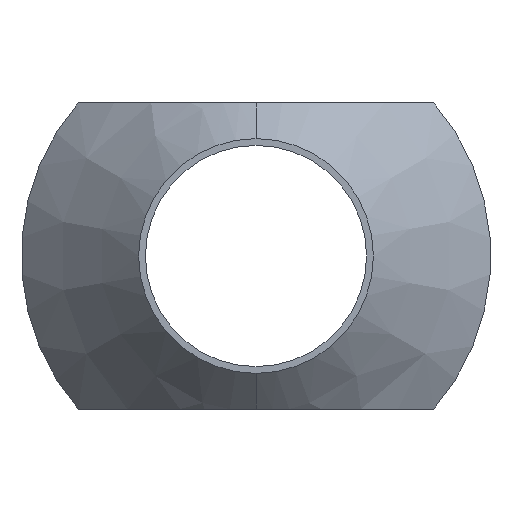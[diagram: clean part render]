
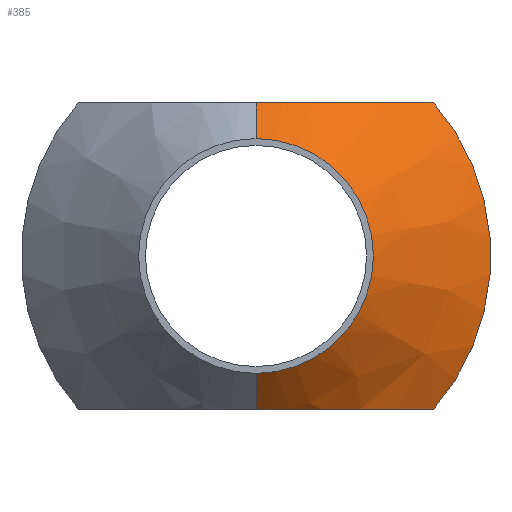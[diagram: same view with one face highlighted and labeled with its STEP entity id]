
A CAD part, front view. The second image highlights one B-rep face of the part: STEP entity #385.
In plain terms, the highlighted conical face has half-angle 45 degrees and reference radius 3.45 mm.
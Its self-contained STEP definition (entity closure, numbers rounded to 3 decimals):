
#1 = ORIENTED_EDGE ( 'NONE', *, *, #290, .F. ) ;
#60 = CARTESIAN_POINT ( 'NONE',  ( 5.231, 17.65, 4.5 ) ) ;
#69 = DIRECTION ( 'NONE',  ( 0., 0.707, 0.707 ) ) ;
#76 = ORIENTED_EDGE ( 'NONE', *, *, #792, .T. ) ;
#78 = B_SPLINE_CURVE_WITH_KNOTS ( 'NONE', 3,
 ( #628, #129, #206, #698, #284, #770, #354, #842, #426, #900, #487, #60 ),
 .UNSPECIFIED., .F., .F.,
 ( 4, 2, 2, 2, 2, 4 ),
 ( 0.014, 0.015, 0.016, 0.017, 0.018, 0.02 ),
 .UNSPECIFIED. ) ;
#79 = CARTESIAN_POINT ( 'NONE',  ( 1.913, 15.619, -4.5 ) ) ;
#90 = ORIENTED_EDGE ( 'NONE', *, *, #323, .T. ) ;
#105 = CARTESIAN_POINT ( 'NONE',  ( 5.231, 17.65, 4.5 ) ) ;
#128 = DIRECTION ( 'NONE',  ( 0., 1., 0. ) ) ;
#129 = CARTESIAN_POINT ( 'NONE',  ( 0.247, 15.25, 4.5 ) ) ;
#145 = CARTESIAN_POINT ( 'NONE',  ( 0.976, 15.349, -4.5 ) ) ;
#148 = VERTEX_POINT ( 'NONE', #105 ) ;
#150 = CIRCLE ( 'NONE', #782, 3.45 ) ;
#157 = AXIS2_PLACEMENT_3D ( 'NONE', #553, #128, #423 ) ;
#194 = ORIENTED_EDGE ( 'NONE', *, *, #266, .F. ) ;
#199 = LINE ( 'NONE', #813, #514 ) ;
#206 = CARTESIAN_POINT ( 'NONE',  ( 0.494, 15.271, 4.5 ) ) ;
#227 = CARTESIAN_POINT ( 'NONE',  ( 4.45, 17.071, -4.5 ) ) ;
#229 = CARTESIAN_POINT ( 'NONE',  ( 0.247, 15.25, -4.5 ) ) ;
#266 = EDGE_CURVE ( 'NONE', #852, #845, #725, .T. ) ;
#284 = CARTESIAN_POINT ( 'NONE',  ( 1.213, 15.405, 4.5 ) ) ;
#290 = EDGE_CURVE ( 'NONE', #839, #398, #653, .T. ) ;
#294 = CARTESIAN_POINT ( 'NONE',  ( 0., 14.2, 3.45 ) ) ;
#304 = CARTESIAN_POINT ( 'NONE',  ( 4.843, 17.356, -4.5 ) ) ;
#323 = EDGE_CURVE ( 'NONE', #839, #148, #633, .T. ) ;
#342 = CARTESIAN_POINT ( 'NONE',  ( 0., 17.65, 0. ) ) ;
#354 = CARTESIAN_POINT ( 'NONE',  ( 2.367, 15.821, 4.5 ) ) ;
#372 = CONICAL_SURFACE ( 'NONE', #157, 3.45, 0.785 ) ;
#385 = ADVANCED_FACE ( 'NONE', ( #642 ), #372, .T. ) ;
#393 = DIRECTION ( 'NONE',  ( 0., -1., 0. ) ) ;
#398 = VERTEX_POINT ( 'NONE', #486 ) ;
#411 = CARTESIAN_POINT ( 'NONE',  ( 0., 15.25, 4.5 ) ) ;
#413 = DIRECTION ( 'NONE',  ( 0., 0., -1. ) ) ;
#421 = EDGE_CURVE ( 'NONE', #845, #148, #78, .T. ) ;
#423 = DIRECTION ( 'NONE',  ( 0., 0., 1. ) ) ;
#426 = CARTESIAN_POINT ( 'NONE',  ( 3.643, 16.532, 4.5 ) ) ;
#441 = CARTESIAN_POINT ( 'NONE',  ( 3.643, 16.532, -4.5 ) ) ;
#468 = DIRECTION ( 'NONE',  ( 0., 0.707, -0.707 ) ) ;
#473 = ORIENTED_EDGE ( 'NONE', *, *, #872, .F. ) ;
#482 = ORIENTED_EDGE ( 'NONE', *, *, #421, .F. ) ;
#486 = CARTESIAN_POINT ( 'NONE',  ( 0., 15.25, -4.5 ) ) ;
#487 = CARTESIAN_POINT ( 'NONE',  ( 4.843, 17.356, 4.5 ) ) ;
#501 = CARTESIAN_POINT ( 'NONE',  ( 2.367, 15.821, -4.5 ) ) ;
#514 = VECTOR ( 'NONE', #468, 1000. ) ;
#553 = CARTESIAN_POINT ( 'NONE',  ( 0., 14.2, 0. ) ) ;
#575 = CARTESIAN_POINT ( 'NONE',  ( 1.213, 15.405, -4.5 ) ) ;
#610 = CARTESIAN_POINT ( 'NONE',  ( 5.231, 17.65, -4.5 ) ) ;
#628 = CARTESIAN_POINT ( 'NONE',  ( 0., 15.25, 4.5 ) ) ;
#631 = AXIS2_PLACEMENT_3D ( 'NONE', #342, #828, #413 ) ;
#633 = CIRCLE ( 'NONE', #631, 6.9 ) ;
#637 = EDGE_LOOP ( 'NONE', ( #473, #76, #1, #90, #482, #194 ) ) ;
#642 = FACE_OUTER_BOUND ( 'NONE', #637, .T. ) ;
#652 = CARTESIAN_POINT ( 'NONE',  ( 0.494, 15.271, -4.5 ) ) ;
#653 = B_SPLINE_CURVE_WITH_KNOTS ( 'NONE', 3,
 ( #856, #304, #227, #441, #921, #501, #79, #575, #145, #652, #229, #714 ),
 .UNSPECIFIED., .F., .F.,
 ( 4, 2, 2, 2, 2, 4 ),
 ( 0.025, 0.026, 0.027, 0.029, 0.03, 0.03 ),
 .UNSPECIFIED. ) ;
#686 = CARTESIAN_POINT ( 'NONE',  ( 0., 14.2, -3.45 ) ) ;
#698 = CARTESIAN_POINT ( 'NONE',  ( 0.976, 15.349, 4.5 ) ) ;
#714 = CARTESIAN_POINT ( 'NONE',  ( 0., 15.25, -4.5 ) ) ;
#725 = LINE ( 'NONE', #294, #905 ) ;
#770 = CARTESIAN_POINT ( 'NONE',  ( 1.913, 15.619, 4.5 ) ) ;
#782 = AXIS2_PLACEMENT_3D ( 'NONE', #807, #393, #870 ) ;
#792 = EDGE_CURVE ( 'NONE', #800, #398, #199, .T. ) ;
#800 = VERTEX_POINT ( 'NONE', #686 ) ;
#807 = CARTESIAN_POINT ( 'NONE',  ( 0., 14.2, 0. ) ) ;
#813 = CARTESIAN_POINT ( 'NONE',  ( 0., 14.2, -3.45 ) ) ;
#828 = DIRECTION ( 'NONE',  ( 0., -1., 0. ) ) ;
#839 = VERTEX_POINT ( 'NONE', #610 ) ;
#842 = CARTESIAN_POINT ( 'NONE',  ( 3.229, 16.277, 4.5 ) ) ;
#845 = VERTEX_POINT ( 'NONE', #411 ) ;
#852 = VERTEX_POINT ( 'NONE', #886 ) ;
#856 = CARTESIAN_POINT ( 'NONE',  ( 5.231, 17.65, -4.5 ) ) ;
#870 = DIRECTION ( 'NONE',  ( 0., 0., -1. ) ) ;
#872 = EDGE_CURVE ( 'NONE', #800, #852, #150, .T. ) ;
#886 = CARTESIAN_POINT ( 'NONE',  ( 0., 14.2, 3.45 ) ) ;
#900 = CARTESIAN_POINT ( 'NONE',  ( 4.45, 17.071, 4.5 ) ) ;
#905 = VECTOR ( 'NONE', #69, 1000. ) ;
#921 = CARTESIAN_POINT ( 'NONE',  ( 3.229, 16.277, -4.5 ) ) ;
